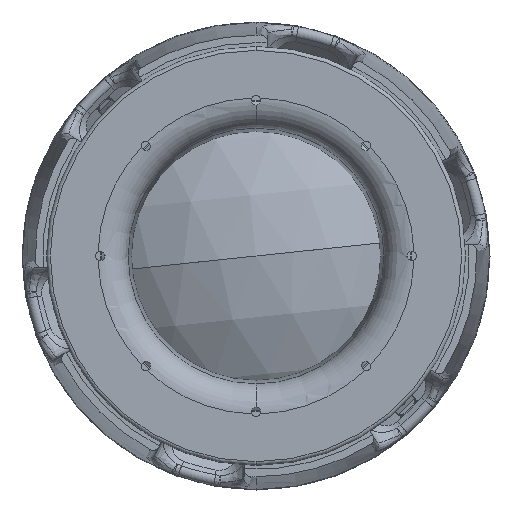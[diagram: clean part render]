
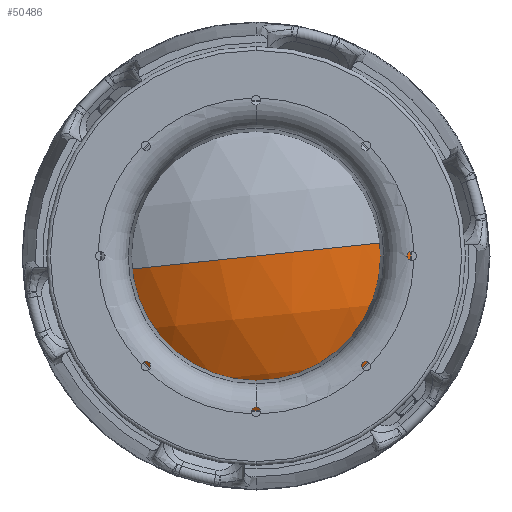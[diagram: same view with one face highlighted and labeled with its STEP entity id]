
A CAD part, front view. The second image highlights one B-rep face of the part: STEP entity #50486.
In plain terms, the highlighted spherical face has radius 66.813 mm.
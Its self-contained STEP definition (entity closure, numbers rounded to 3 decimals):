
#2016 = ORIENTED_EDGE ( 'NONE', *, *, #56330, .T. ) ;
#2687 = EDGE_CURVE ( 'NONE', #27069, #58638, #52582, .T. ) ;
#4282 = EDGE_CURVE ( 'NONE', #50931, #27069, #6562, .T. ) ;
#6562 = CIRCLE ( 'NONE', #39699, 66.813 ) ;
#6894 = DIRECTION ( 'NONE',  ( 0., 0., 1. ) ) ;
#7343 = CIRCLE ( 'NONE', #35333, 66.813 ) ;
#8849 = DIRECTION ( 'NONE',  ( 1., 0., 0. ) ) ;
#12946 = CARTESIAN_POINT ( 'NONE',  ( 0., -17.2, 0. ) ) ;
#13429 = DIRECTION ( 'NONE',  ( 0., 0., -1. ) ) ;
#17313 = DIRECTION ( 'NONE',  ( 0., 0., -1. ) ) ;
#17731 = CARTESIAN_POINT ( 'NONE',  ( 0., 49.613, 0. ) ) ;
#18185 = AXIS2_PLACEMENT_3D ( 'NONE', #31699, #13429, #8849 ) ;
#20551 = EDGE_LOOP ( 'NONE', ( #31939, #2016, #38667 ) ) ;
#23677 = DIRECTION ( 'NONE',  ( -1., 0., 0. ) ) ;
#27069 = VERTEX_POINT ( 'NONE', #42853 ) ;
#31699 = CARTESIAN_POINT ( 'NONE',  ( 0., 49.613, 0. ) ) ;
#31939 = ORIENTED_EDGE ( 'NONE', *, *, #4282, .F. ) ;
#32521 = CARTESIAN_POINT ( 'NONE',  ( 0., -0.074, 0. ) ) ;
#33236 = FACE_OUTER_BOUND ( 'NONE', #20551, .T. ) ;
#35333 = AXIS2_PLACEMENT_3D ( 'NONE', #17731, #17313, #49392 ) ;
#35719 = AXIS2_PLACEMENT_3D ( 'NONE', #32521, #46726, #23677 ) ;
#38667 = ORIENTED_EDGE ( 'NONE', *, *, #2687, .F. ) ;
#39699 = AXIS2_PLACEMENT_3D ( 'NONE', #48222, #6894, #48825 ) ;
#42853 = CARTESIAN_POINT ( 'NONE',  ( 44.667, -0.074, 0. ) ) ;
#43913 = CARTESIAN_POINT ( 'NONE',  ( -44.667, -0.074, 0. ) ) ;
#46726 = DIRECTION ( 'NONE',  ( 0., 1., 0. ) ) ;
#48222 = CARTESIAN_POINT ( 'NONE',  ( 0., 49.613, 0. ) ) ;
#48825 = DIRECTION ( 'NONE',  ( 1., 0., 0. ) ) ;
#49392 = DIRECTION ( 'NONE',  ( -1., 0., 0. ) ) ;
#50486 = ADVANCED_FACE ( 'NONE', ( #33236 ), #51162, .T. ) ;
#50931 = VERTEX_POINT ( 'NONE', #12946 ) ;
#51162 = SPHERICAL_SURFACE ( 'NONE', #18185, 66.813 ) ;
#52582 = CIRCLE ( 'NONE', #35719, 44.667 ) ;
#56330 = EDGE_CURVE ( 'NONE', #50931, #58638, #7343, .T. ) ;
#58638 = VERTEX_POINT ( 'NONE', #43913 ) ;
